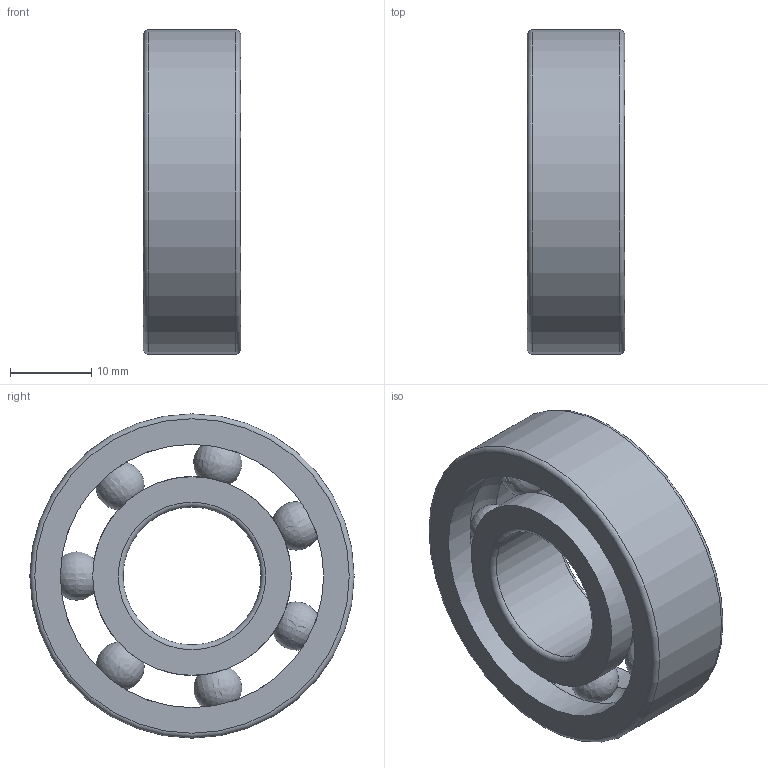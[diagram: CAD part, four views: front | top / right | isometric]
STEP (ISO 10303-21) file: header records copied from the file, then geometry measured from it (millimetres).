
FILE_DESCRIPTION(/* description */ ('깊은 그루브 볼 베어링'),/* implementation_level */ '2;1');
FILE_NAME(/* name */ '',/* time_stamp */ '2025-04-29T13:43:58+09:00',/* author */ ('jhkim'),/* organization */ (''),/* preprocessor_version */ 'ST-DEVELOPER v20.1',/* originating_system */ 'Autodesk Inventor 2026',/* authorisation */ '');
FILE_SCHEMA (('AUTOMOTIVE_DESIGN { 1 0 10303 214 3 1 1 }'));
Length unit declared in the file: millimetre
Products named in the file (1): 깊은 홈 볼 베어링 
6203
Bounding box: 12 x 40 x 40 mm (x, y, z)
Volume: 8267.3 mm3; surface area: 6435.8 mm2
Topology: 9 solids, 9 shells, 35 faces, 93 edges, 62 vertices
Faces by surface type: torus 18, sphere 7, cylinder 6, plane 4
Full cylindrical faces by diameter (mm): 17 x1, 24.498 x2, 32.502 x2, 40 x1
Entity records: 1309 total; most frequent: DIRECTION 252, CARTESIAN_POINT 219, ORIENTED_EDGE 186, AXIS2_PLACEMENT_3D 123, EDGE_CURVE 93, VERTEX_POINT 90, CIRCLE 87, EDGE_LOOP 53
